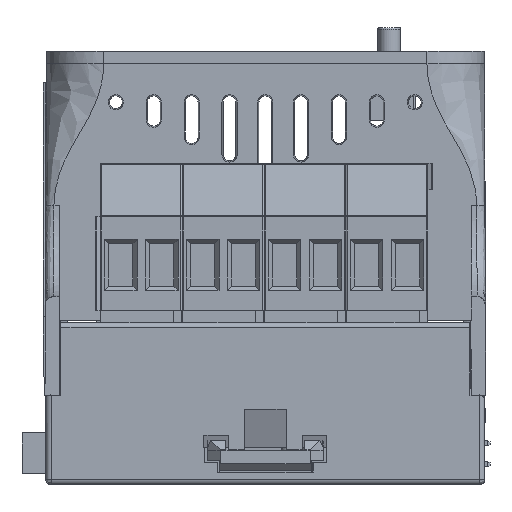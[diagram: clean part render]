
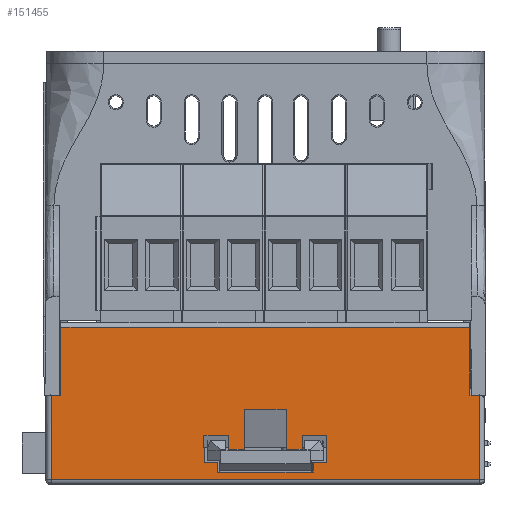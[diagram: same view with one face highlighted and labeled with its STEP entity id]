
A CAD part, front view. The second image highlights one B-rep face of the part: STEP entity #151455.
In plain terms, the highlighted planar face has unit normal (0, -1, 0).
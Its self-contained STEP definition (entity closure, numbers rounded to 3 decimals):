
#1970=FACE_BOUND('',#56219,.T.);
#4863=PLANE('',#159921);
#14479=LINE('',#226274,#32326);
#14640=LINE('',#228188,#32487);
#14654=LINE('',#228406,#32501);
#14657=LINE('',#228417,#32504);
#14660=LINE('',#228432,#32507);
#15310=LINE('',#229949,#33157);
#15313=LINE('',#229954,#33160);
#15315=LINE('',#229958,#33162);
#15317=LINE('',#229962,#33164);
#15321=LINE('',#229968,#33168);
#15323=LINE('',#229972,#33170);
#15324=LINE('',#229975,#33171);
#15327=LINE('',#229980,#33174);
#15329=LINE('',#229984,#33176);
#15331=LINE('',#229988,#33178);
#15334=LINE('',#229993,#33181);
#15336=LINE('',#229997,#33183);
#15339=LINE('',#230002,#33186);
#15340=LINE('',#230005,#33187);
#15342=LINE('',#230009,#33189);
#15344=LINE('',#230012,#33191);
#15345=LINE('',#230015,#33192);
#15557=LINE('',#230570,#33404);
#15559=LINE('',#230573,#33406);
#15578=LINE('',#230617,#33425);
#15579=LINE('',#230619,#33426);
#32326=VECTOR('',#177422,1.);
#32487=VECTOR('',#177873,1.);
#32501=VECTOR('',#177915,1.);
#32504=VECTOR('',#177928,1.);
#32507=VECTOR('',#177941,1.);
#33157=VECTOR('',#179275,1.);
#33160=VECTOR('',#179280,1.);
#33162=VECTOR('',#179284,1.);
#33164=VECTOR('',#179288,1.);
#33168=VECTOR('',#179294,1.);
#33170=VECTOR('',#179298,1.);
#33171=VECTOR('',#179301,1.);
#33174=VECTOR('',#179306,1.);
#33176=VECTOR('',#179310,1.);
#33178=VECTOR('',#179314,1.);
#33181=VECTOR('',#179319,1.);
#33183=VECTOR('',#179323,1.);
#33186=VECTOR('',#179328,1.);
#33187=VECTOR('',#179331,1.);
#33189=VECTOR('',#179335,1.);
#33191=VECTOR('',#179339,1.);
#33192=VECTOR('',#179342,1.);
#33404=VECTOR('',#179858,1.);
#33406=VECTOR('',#179862,1.);
#33425=VECTOR('',#179909,1.);
#33426=VECTOR('',#179912,1.);
#48226=FACE_OUTER_BOUND('',#56218,.T.);
#56218=EDGE_LOOP('',(#114231,#114232,#114233,#114234,#114235,#114236,#114237,
#114238,#114239,#114240));
#56219=EDGE_LOOP('',(#114241,#114242,#114243,#114244,#114245,#114246,#114247,
#114248,#114249,#114250,#114251,#114252,#114253,#114254,#114255,#114256));
#68223=VERTEX_POINT('',#225436);
#68316=VERTEX_POINT('',#226272);
#68455=VERTEX_POINT('',#228185);
#68456=VERTEX_POINT('',#228187);
#68466=VERTEX_POINT('',#228404);
#68469=VERTEX_POINT('',#228416);
#68475=VERTEX_POINT('',#228429);
#68476=VERTEX_POINT('',#228431);
#68967=VERTEX_POINT('',#229840);
#68991=VERTEX_POINT('',#229946);
#68992=VERTEX_POINT('',#229948);
#68993=VERTEX_POINT('',#229952);
#68994=VERTEX_POINT('',#229956);
#68995=VERTEX_POINT('',#229961);
#68996=VERTEX_POINT('',#229966);
#68997=VERTEX_POINT('',#229970);
#68998=VERTEX_POINT('',#229974);
#68999=VERTEX_POINT('',#229979);
#69000=VERTEX_POINT('',#229983);
#69001=VERTEX_POINT('',#229987);
#69002=VERTEX_POINT('',#229992);
#69003=VERTEX_POINT('',#229996);
#69004=VERTEX_POINT('',#230000);
#69005=VERTEX_POINT('',#230004);
#69006=VERTEX_POINT('',#230008);
#69007=VERTEX_POINT('',#230014);
#84295=EDGE_CURVE('',#68223,#68316,#14479,.T.);
#84548=EDGE_CURVE('',#68456,#68455,#14640,.T.);
#84572=EDGE_CURVE('',#68316,#68466,#14654,.T.);
#84577=EDGE_CURVE('',#68469,#68456,#14657,.T.);
#84584=EDGE_CURVE('',#68476,#68475,#14660,.T.);
#85349=EDGE_CURVE('',#68992,#68991,#15310,.T.);
#85352=EDGE_CURVE('',#68993,#68992,#15313,.T.);
#85354=EDGE_CURVE('',#68993,#68994,#15315,.T.);
#85356=EDGE_CURVE('',#68994,#68995,#15317,.T.);
#85360=EDGE_CURVE('',#68996,#68995,#15321,.T.);
#85362=EDGE_CURVE('',#68996,#68997,#15323,.T.);
#85363=EDGE_CURVE('',#68998,#68997,#15324,.T.);
#85366=EDGE_CURVE('',#68998,#68999,#15327,.T.);
#85368=EDGE_CURVE('',#69000,#68999,#15329,.T.);
#85370=EDGE_CURVE('',#69000,#69001,#15331,.T.);
#85373=EDGE_CURVE('',#69001,#69002,#15334,.T.);
#85375=EDGE_CURVE('',#69003,#69002,#15336,.T.);
#85378=EDGE_CURVE('',#69004,#69003,#15339,.T.);
#85379=EDGE_CURVE('',#69005,#69004,#15340,.T.);
#85381=EDGE_CURVE('',#69006,#69005,#15342,.T.);
#85383=EDGE_CURVE('',#68991,#69006,#15344,.T.);
#85384=EDGE_CURVE('',#69007,#68967,#15345,.T.);
#85637=EDGE_CURVE('',#68967,#68223,#15557,.T.);
#85639=EDGE_CURVE('',#68466,#68476,#15559,.T.);
#85661=EDGE_CURVE('',#68469,#68475,#15578,.T.);
#85662=EDGE_CURVE('',#68455,#69007,#15579,.T.);
#114231=ORIENTED_EDGE('',*,*,#85662,.T.);
#114232=ORIENTED_EDGE('',*,*,#85384,.T.);
#114233=ORIENTED_EDGE('',*,*,#85637,.T.);
#114234=ORIENTED_EDGE('',*,*,#84295,.T.);
#114235=ORIENTED_EDGE('',*,*,#84572,.T.);
#114236=ORIENTED_EDGE('',*,*,#85639,.T.);
#114237=ORIENTED_EDGE('',*,*,#84584,.T.);
#114238=ORIENTED_EDGE('',*,*,#85661,.F.);
#114239=ORIENTED_EDGE('',*,*,#84577,.T.);
#114240=ORIENTED_EDGE('',*,*,#84548,.T.);
#114241=ORIENTED_EDGE('',*,*,#85383,.T.);
#114242=ORIENTED_EDGE('',*,*,#85381,.T.);
#114243=ORIENTED_EDGE('',*,*,#85379,.T.);
#114244=ORIENTED_EDGE('',*,*,#85378,.T.);
#114245=ORIENTED_EDGE('',*,*,#85375,.T.);
#114246=ORIENTED_EDGE('',*,*,#85373,.F.);
#114247=ORIENTED_EDGE('',*,*,#85370,.F.);
#114248=ORIENTED_EDGE('',*,*,#85368,.T.);
#114249=ORIENTED_EDGE('',*,*,#85366,.F.);
#114250=ORIENTED_EDGE('',*,*,#85363,.T.);
#114251=ORIENTED_EDGE('',*,*,#85362,.F.);
#114252=ORIENTED_EDGE('',*,*,#85360,.T.);
#114253=ORIENTED_EDGE('',*,*,#85356,.F.);
#114254=ORIENTED_EDGE('',*,*,#85354,.F.);
#114255=ORIENTED_EDGE('',*,*,#85352,.T.);
#114256=ORIENTED_EDGE('',*,*,#85349,.T.);
#151455=ADVANCED_FACE('',(#48226,#1970),#4863,.F.);
#159921=AXIS2_PLACEMENT_3D('',#230618,#179910,#179911);
#177422=DIRECTION('',(-1.,0.,0.));
#177873=DIRECTION('',(-1.,0.,0.));
#177915=DIRECTION('',(-1.,0.,0.));
#177928=DIRECTION('',(-1.,0.,0.));
#177941=DIRECTION('',(-1.,0.,0.));
#179275=DIRECTION('',(1.,0.,0.));
#179280=DIRECTION('',(-0.009,0.,-1.));
#179284=DIRECTION('',(-1.,0.,0.009));
#179288=DIRECTION('',(0.009,0.,-1.));
#179294=DIRECTION('',(-1.,0.,0.));
#179298=DIRECTION('',(0.009,0.,-1.));
#179301=DIRECTION('',(-1.,0.,0.));
#179306=DIRECTION('',(0.009,0.,1.));
#179310=DIRECTION('',(-1.,0.,0.));
#179314=DIRECTION('',(0.009,0.,1.));
#179319=DIRECTION('',(-1.,0.,-0.009));
#179323=DIRECTION('',(-0.009,0.,1.));
#179328=DIRECTION('',(1.,0.,0.));
#179331=DIRECTION('',(0.,0.,-1.));
#179335=DIRECTION('',(1.,0.,0.));
#179339=DIRECTION('',(0.,0.,1.));
#179342=DIRECTION('',(1.,0.,0.));
#179858=DIRECTION('',(0.,0.,1.));
#179862=DIRECTION('',(0.,0.,1.));
#179909=DIRECTION('',(0.,0.,1.));
#179910=DIRECTION('center_axis',(0.,1.,0.));
#179911=DIRECTION('ref_axis',(0.,0.,
1.));
#179912=DIRECTION('',(0.,0.,-1.));
#225436=CARTESIAN_POINT('',(26.15,-44.622,4.871));
#226272=CARTESIAN_POINT('',(25.14,-44.622,4.871));
#226274=CARTESIAN_POINT('',(25.908,-44.622,4.871));
#228185=CARTESIAN_POINT('',(-26.15,-44.622,4.871));
#228187=CARTESIAN_POINT('',(-25.14,-44.622,4.871));
#228188=CARTESIAN_POINT('',(-25.908,-44.622,4.871));
#228404=CARTESIAN_POINT('',(24.941,-44.622,4.871));
#228406=CARTESIAN_POINT('',(25.908,-44.622,4.871));
#228416=CARTESIAN_POINT('',(-24.941,-44.622,4.871));
#228417=CARTESIAN_POINT('',(-25.908,-44.622,4.871));
#228429=CARTESIAN_POINT('',(-24.941,-44.622,13.156));
#228431=CARTESIAN_POINT('',(24.941,-44.622,13.156));
#228432=CARTESIAN_POINT('',(-38.979,-44.622,13.156));
#229840=CARTESIAN_POINT('',(26.15,-44.622,-5.4));
#229946=CARTESIAN_POINT('',(-2.55,-44.622,-1.725));
#229948=CARTESIAN_POINT('',(-4.498,-44.622,-1.725));
#229949=CARTESIAN_POINT('',(38.979,-44.622,-1.725));
#229952=CARTESIAN_POINT('',(-4.483,-44.622,-0.015));
#229954=CARTESIAN_POINT('',(-4.443,-44.622,4.558));
#229956=CARTESIAN_POINT('',(-7.496,-44.622,0.011));
#229958=CARTESIAN_POINT('',(-3.784,-44.622,-0.021));
#229961=CARTESIAN_POINT('',(-7.467,-44.622,-3.32));
#229962=CARTESIAN_POINT('',(-7.645,-44.622,17.1));
#229966=CARTESIAN_POINT('',(-5.867,-44.622,-3.32));
#229968=CARTESIAN_POINT('',(-3.728,-44.622,-3.32));
#229970=CARTESIAN_POINT('',(-5.857,-44.622,-4.5));
#229972=CARTESIAN_POINT('',(-5.855,-44.622,-4.646));
#229974=CARTESIAN_POINT('',(5.857,-44.622,-4.5));
#229975=CARTESIAN_POINT('',(-38.979,-44.622,-4.5));
#229979=CARTESIAN_POINT('',(5.867,-44.622,-3.32));
#229980=CARTESIAN_POINT('',(5.855,-44.622,-4.646));
#229983=CARTESIAN_POINT('',(7.467,-44.622,-3.32));
#229984=CARTESIAN_POINT('',(3.728,-44.622,-3.32));
#229987=CARTESIAN_POINT('',(7.496,-44.622,0.011));
#229988=CARTESIAN_POINT('',(7.645,-44.622,17.1));
#229992=CARTESIAN_POINT('',(4.483,-44.622,-0.015));
#229993=CARTESIAN_POINT('',(3.784,-44.622,-0.021));
#229996=CARTESIAN_POINT('',(4.498,-44.622,-1.725));
#229997=CARTESIAN_POINT('',(4.443,-44.622,4.558));
#230000=CARTESIAN_POINT('',(2.55,-44.622,-1.725));
#230002=CARTESIAN_POINT('',(-38.979,-44.622,-1.725));
#230004=CARTESIAN_POINT('',(2.55,-44.622,3.175));
#230005=CARTESIAN_POINT('',(2.55,-44.622,6.016));
#230008=CARTESIAN_POINT('',(-2.55,-44.622,3.175));
#230009=CARTESIAN_POINT('',(-38.979,-44.622,3.175));
#230012=CARTESIAN_POINT('',(-2.55,-44.622,6.016));
#230014=CARTESIAN_POINT('',(-26.15,-44.622,-5.4));
#230015=CARTESIAN_POINT('',(26.15,-44.622,-5.4));
#230570=CARTESIAN_POINT('',(26.15,-44.622,17.506));
#230573=CARTESIAN_POINT('',(24.941,-44.622,17.506));
#230617=CARTESIAN_POINT('',(-24.941,-44.622,17.506));
#230618=CARTESIAN_POINT('Origin',(-38.979,-44.622,17.506));
#230619=CARTESIAN_POINT('',(-26.15,-44.622,17.506));
